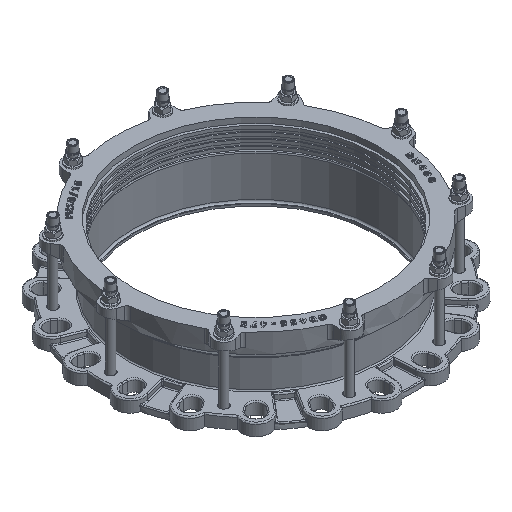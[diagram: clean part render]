
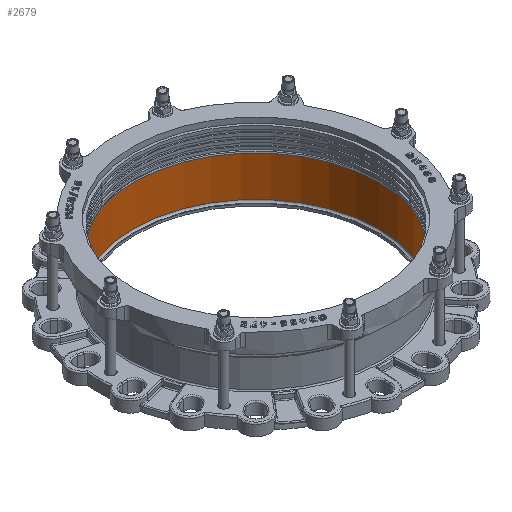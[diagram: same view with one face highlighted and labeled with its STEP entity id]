
A CAD part, isometric view. The second image highlights one B-rep face of the part: STEP entity #2679.
In plain terms, the highlighted cylindrical face has radius 237.5 mm (diameter 475 mm), a full revolution.
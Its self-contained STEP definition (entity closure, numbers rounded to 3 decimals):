
#2679=ADVANCED_FACE('',(#18642,#18644),#18646,.F.);
#18642=FACE_OUTER_BOUND('',#18643,.T.);
#18643=EDGE_LOOP('',(#26812));
#18644=FACE_OUTER_BOUND('',#18645,.T.);
#18645=EDGE_LOOP('',(#26813));
#18646=CYLINDRICAL_SURFACE('',#18647,237.5);
#18647=AXIS2_PLACEMENT_3D('',#18648,#18649,#18650);
#18648=CARTESIAN_POINT('',(0.,0.,4.));
#18649=DIRECTION('',(0.,0.,1.));
#18650=DIRECTION('',(-1.,0.,0.));
#26812=ORIENTED_EDGE('',*,*,#32664,.F.);
#26813=ORIENTED_EDGE('',*,*,#32663,.T.);
#32663=EDGE_CURVE('',#37323,#37323,#37324,.F.);
#32664=EDGE_CURVE('',#37325,#37325,#37326,.T.);
#37323=VERTEX_POINT('',#55214);
#37324=CIRCLE('',#55215,237.5);
#37325=VERTEX_POINT('',#55219);
#37326=CIRCLE('',#55220,237.5);
#55214=CARTESIAN_POINT('',(0.,237.5,7.5));
#55215=AXIS2_PLACEMENT_3D('',#55216,#55217,#55218);
#55216=CARTESIAN_POINT('',(0.,0.,7.5));
#55217=DIRECTION('',(0.,0.,1.));
#55218=DIRECTION('',(0.,1.,0.));
#55219=CARTESIAN_POINT('',(0.,237.5,85.25));
#55220=AXIS2_PLACEMENT_3D('',#55221,#55222,#55223);
#55221=CARTESIAN_POINT('',(0.,0.,85.25));
#55222=DIRECTION('',(0.,0.,-1.));
#55223=DIRECTION('',(0.,1.,0.));
